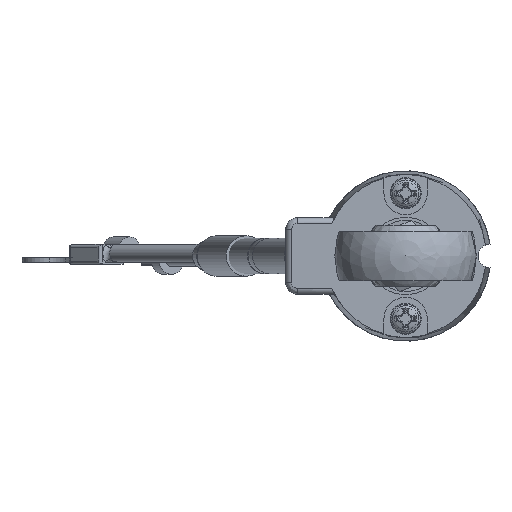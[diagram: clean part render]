
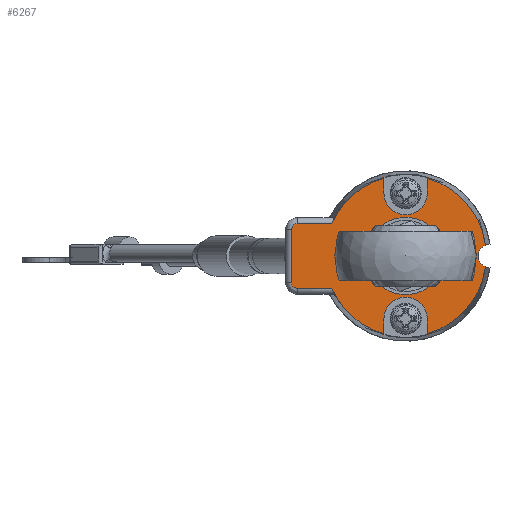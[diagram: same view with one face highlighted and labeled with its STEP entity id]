
A CAD part, left-side view. The second image highlights one B-rep face of the part: STEP entity #6267.
In plain terms, the highlighted planar face has unit normal (-1, 0, 0).
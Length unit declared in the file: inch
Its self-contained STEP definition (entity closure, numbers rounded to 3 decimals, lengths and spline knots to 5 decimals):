
#549=ELLIPSE('',#6669,0.03003,0.03);
#550=ELLIPSE('',#6673,0.03003,0.03);
#696=PLANE('',#6675);
#908=LINE('',#9190,#1099);
#909=LINE('',#9222,#1100);
#910=LINE('',#9265,#1101);
#911=LINE('',#9272,#1102);
#912=LINE('',#9276,#1103);
#913=LINE('',#9284,#1104);
#914=LINE('',#9287,#1105);
#1099=VECTOR('',#7465,0.17464);
#1100=VECTOR('',#7474,0.26985);
#1101=VECTOR('',#7481,0.17464);
#1102=VECTOR('',#7488,0.07568);
#1103=VECTOR('',#7491,0.07568);
#1104=VECTOR('',#7498,0.07568);
#1105=VECTOR('',#7501,0.07568);
#1278=FACE_BOUND('',#1819,.T.);
#1462=FACE_OUTER_BOUND('',#1818,.T.);
#1818=EDGE_LOOP('',(#4394,#4395,#4396,#4397,#4398,#4399,#4400,#4401,#4402,
#4403,#4404,#4405,#4406,#4407,#4408,#4409));
#1819=EDGE_LOOP('',(#4410));
#2311=CIRCLE('',#6638,0.105);
#2324=CIRCLE('',#6676,0.41);
#2325=CIRCLE('',#6677,0.41);
#2326=CIRCLE('',#6678,0.11);
#2327=CIRCLE('',#6679,0.41);
#2328=CIRCLE('',#6680,0.06);
#2329=CIRCLE('',#6681,0.41);
#2330=CIRCLE('',#6682,0.11);
#2642=VERTEX_POINT('',#9033);
#2665=VERTEX_POINT('',#9174);
#2666=VERTEX_POINT('',#9176);
#2667=VERTEX_POINT('',#9216);
#2668=VERTEX_POINT('',#9220);
#2669=VERTEX_POINT('',#9248);
#2670=VERTEX_POINT('',#9252);
#2671=VERTEX_POINT('',#9267);
#2672=VERTEX_POINT('',#9269);
#2673=VERTEX_POINT('',#9271);
#2674=VERTEX_POINT('',#9273);
#2675=VERTEX_POINT('',#9275);
#2676=VERTEX_POINT('',#9277);
#2677=VERTEX_POINT('',#9279);
#2678=VERTEX_POINT('',#9281);
#2679=VERTEX_POINT('',#9283);
#2680=VERTEX_POINT('',#9285);
#3382=EDGE_CURVE('',#2642,#2642,#2311,.T.);
#3418=EDGE_CURVE('',#2666,#2665,#908,.T.);
#3420=EDGE_CURVE('',#2665,#2667,#549,.T.);
#3422=EDGE_CURVE('',#2667,#2668,#909,.T.);
#3424=EDGE_CURVE('',#2668,#2669,#550,.T.);
#3426=EDGE_CURVE('',#2669,#2670,#910,.T.);
#3427=EDGE_CURVE('',#2670,#2671,#2324,.T.);
#3428=EDGE_CURVE('',#2672,#2666,#2325,.T.);
#3429=EDGE_CURVE('',#2672,#2673,#911,.T.);
#3430=EDGE_CURVE('',#2673,#2674,#2326,.T.);
#3431=EDGE_CURVE('',#2674,#2675,#912,.T.);
#3432=EDGE_CURVE('',#2676,#2675,#2327,.T.);
#3433=EDGE_CURVE('',#2676,#2677,#2328,.T.);
#3434=EDGE_CURVE('',#2678,#2677,#2329,.T.);
#3435=EDGE_CURVE('',#2678,#2679,#913,.T.);
#3436=EDGE_CURVE('',#2679,#2680,#2330,.T.);
#3437=EDGE_CURVE('',#2680,#2671,#914,.T.);
#4394=ORIENTED_EDGE('',*,*,#3427,.F.);
#4395=ORIENTED_EDGE('',*,*,#3426,.F.);
#4396=ORIENTED_EDGE('',*,*,#3424,.F.);
#4397=ORIENTED_EDGE('',*,*,#3422,.F.);
#4398=ORIENTED_EDGE('',*,*,#3420,.F.);
#4399=ORIENTED_EDGE('',*,*,#3418,.F.);
#4400=ORIENTED_EDGE('',*,*,#3428,.F.);
#4401=ORIENTED_EDGE('',*,*,#3429,.T.);
#4402=ORIENTED_EDGE('',*,*,#3430,.T.);
#4403=ORIENTED_EDGE('',*,*,#3431,.T.);
#4404=ORIENTED_EDGE('',*,*,#3432,.F.);
#4405=ORIENTED_EDGE('',*,*,#3433,.T.);
#4406=ORIENTED_EDGE('',*,*,#3434,.F.);
#4407=ORIENTED_EDGE('',*,*,#3435,.T.);
#4408=ORIENTED_EDGE('',*,*,#3436,.T.);
#4409=ORIENTED_EDGE('',*,*,#3437,.T.);
#4410=ORIENTED_EDGE('',*,*,#3382,.T.);
#6267=ADVANCED_FACE('',(#1462,#1278),#696,.T.);
#6638=AXIS2_PLACEMENT_3D('',#9034,#7392,#7393);
#6669=AXIS2_PLACEMENT_3D('',#9218,#7468,#7469);
#6673=AXIS2_PLACEMENT_3D('',#9250,#7477,#7478);
#6675=AXIS2_PLACEMENT_3D('',#9266,#7482,#7483);
#6676=AXIS2_PLACEMENT_3D('',#9268,#7484,#7485);
#6677=AXIS2_PLACEMENT_3D('',#9270,#7486,#7487);
#6678=AXIS2_PLACEMENT_3D('',#9274,#7489,#7490);
#6679=AXIS2_PLACEMENT_3D('',#9278,#7492,#7493);
#6680=AXIS2_PLACEMENT_3D('',#9280,#7494,#7495);
#6681=AXIS2_PLACEMENT_3D('',#9282,#7496,#7497);
#6682=AXIS2_PLACEMENT_3D('',#9286,#7499,#7500);
#7392=DIRECTION('center_axis',(1.,0.,0.));
#7393=DIRECTION('ref_axis',(0.,0.,1.));
#7465=DIRECTION('',(0.,1.,0.));
#7468=DIRECTION('center_axis',(1.,0.,0.));
#7469=DIRECTION('ref_axis',(0.,0.,-1.));
#7474=DIRECTION('',(0.,0.,1.));
#7477=DIRECTION('center_axis',(1.,0.,0.));
#7478=DIRECTION('ref_axis',(0.,0.,1.));
#7481=DIRECTION('',(0.,-1.,0.));
#7482=DIRECTION('center_axis',(-1.,0.,0.));
#7483=DIRECTION('ref_axis',(0.,0.,1.));
#7484=DIRECTION('center_axis',(1.,0.,0.));
#7485=DIRECTION('ref_axis',(0.,1.,0.));
#7486=DIRECTION('center_axis',(1.,0.,0.));
#7487=DIRECTION('ref_axis',(0.,1.,0.));
#7488=DIRECTION('',(0.,0.,1.));
#7489=DIRECTION('center_axis',(1.,0.,0.));
#7490=DIRECTION('ref_axis',(0.,-1.,0.));
#7491=DIRECTION('',(0.,0.,-1.));
#7492=DIRECTION('center_axis',(1.,0.,0.));
#7493=DIRECTION('ref_axis',(0.,1.,0.));
#7494=DIRECTION('center_axis',(1.,0.,0.));
#7495=DIRECTION('ref_axis',(0.,0.,-1.));
#7496=DIRECTION('center_axis',(1.,0.,0.));
#7497=DIRECTION('ref_axis',(0.,1.,0.));
#7498=DIRECTION('',(0.,0.,-1.));
#7499=DIRECTION('center_axis',(1.,0.,0.));
#7500=DIRECTION('ref_axis',(0.,1.,0.));
#7501=DIRECTION('',(0.,0.,1.));
#9033=CARTESIAN_POINT('',(-0.3,0.,0.105));
#9034=CARTESIAN_POINT('Origin',(-0.3,0.,0.));
#9174=CARTESIAN_POINT('',(-0.3,0.55,-0.16495));
#9176=CARTESIAN_POINT('',(-0.3,0.37536,-0.16495));
#9190=CARTESIAN_POINT('',(-0.3,0.2825,-0.16495));
#9216=CARTESIAN_POINT('',(-0.3,0.58,-0.13492));
#9218=CARTESIAN_POINT('Origin',(-0.3,0.55,-0.13492));
#9220=CARTESIAN_POINT('',(-0.3,0.58,0.13492));
#9222=CARTESIAN_POINT('',(-0.3,0.58,-0.04401));
#9248=CARTESIAN_POINT('',(-0.3,0.55,0.16495));
#9250=CARTESIAN_POINT('Origin',(-0.3,0.55,0.13492));
#9252=CARTESIAN_POINT('',(-0.3,0.37536,0.16495));
#9265=CARTESIAN_POINT('',(-0.3,0.2825,0.16495));
#9266=CARTESIAN_POINT('Origin',(-0.3,0.205,0.));
#9267=CARTESIAN_POINT('',(-0.3,0.11,0.39497));
#9268=CARTESIAN_POINT('Origin',(-0.3,0.,0.));
#9269=CARTESIAN_POINT('',(-0.3,0.11,-0.39497));
#9270=CARTESIAN_POINT('Origin',(-0.3,0.,0.));
#9271=CARTESIAN_POINT('',(-0.3,0.11,-0.31929));
#9272=CARTESIAN_POINT('',(-0.3,0.11,-0.15964));
#9273=CARTESIAN_POINT('',(-0.3,-0.11,-0.31929));
#9274=CARTESIAN_POINT('Origin',(-0.3,0.,-0.31929));
#9275=CARTESIAN_POINT('',(-0.3,-0.11,-0.39497));
#9276=CARTESIAN_POINT('',(-0.3,-0.11,-0.22431));
#9277=CARTESIAN_POINT('',(-0.3,-0.40622,-0.05555));
#9278=CARTESIAN_POINT('Origin',(-0.3,0.,0.));
#9279=CARTESIAN_POINT('',(-0.3,-0.40622,0.05555));
#9280=CARTESIAN_POINT('Origin',(-0.3,-0.42889,0.));
#9281=CARTESIAN_POINT('',(-0.3,-0.11,0.39497));
#9282=CARTESIAN_POINT('Origin',(-0.3,0.,0.));
#9283=CARTESIAN_POINT('',(-0.3,-0.11,0.31929));
#9284=CARTESIAN_POINT('',(-0.3,-0.11,0.15964));
#9285=CARTESIAN_POINT('',(-0.3,0.11,0.31929));
#9286=CARTESIAN_POINT('Origin',(-0.3,0.,0.31929));
#9287=CARTESIAN_POINT('',(-0.3,0.11,0.22431));
